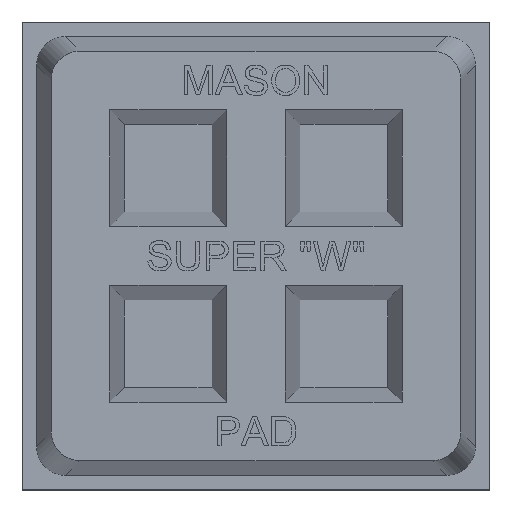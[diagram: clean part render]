
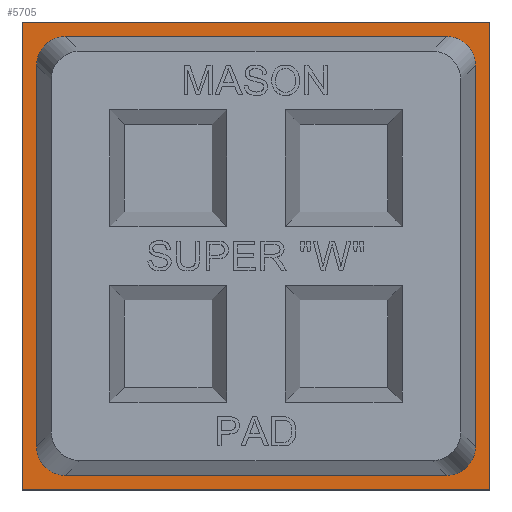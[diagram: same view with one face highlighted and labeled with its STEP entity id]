
A CAD part, top view. The second image highlights one B-rep face of the part: STEP entity #5705.
In plain terms, the highlighted planar face has unit normal (0, 0, 1).
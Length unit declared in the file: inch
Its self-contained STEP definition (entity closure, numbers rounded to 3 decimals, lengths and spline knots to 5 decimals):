
#289=FACE_BOUND('',#1154,.T.);
#507=PLANE('',#5949);
#813=FACE_OUTER_BOUND('',#1153,.T.);
#1153=EDGE_LOOP('',(#5380,#5381,#5382,#5383));
#1154=EDGE_LOOP('',(#5384,#5385,#5386,#5387,#5388,#5389,#5390,#5391));
#1312=LINE('',#7719,#1943);
#1318=LINE('',#7734,#1949);
#1320=LINE('',#7740,#1951);
#1773=LINE('',#10002,#2404);
#1778=LINE('',#10016,#2409);
#1781=LINE('',#10021,#2412);
#1783=LINE('',#10025,#2414);
#1785=LINE('',#10028,#2416);
#1943=VECTOR('',#6157,1.62941);
#1949=VECTOR('',#6173,1.62941);
#1951=VECTOR('',#6181,1.62941);
#2404=VECTOR('',#7040,1.62941);
#2409=VECTOR('',#7051,2.);
#2412=VECTOR('',#7056,2.);
#2414=VECTOR('',#7060,2.);
#2416=VECTOR('',#7064,2.);
#2426=ELLIPSE('',#5726,0.12945,0.125);
#2430=ELLIPSE('',#5733,0.12945,0.125);
#2431=ELLIPSE('',#5735,0.12945,0.125);
#2432=ELLIPSE('',#5738,0.12945,0.125);
#2451=VERTEX_POINT('',#7120);
#2452=VERTEX_POINT('',#7122);
#2654=VERTEX_POINT('',#7718);
#2655=VERTEX_POINT('',#7722);
#2656=VERTEX_POINT('',#7726);
#2657=VERTEX_POINT('',#7728);
#2658=VERTEX_POINT('',#7732);
#2659=VERTEX_POINT('',#7736);
#2967=VERTEX_POINT('',#10014);
#2968=VERTEX_POINT('',#10015);
#2969=VERTEX_POINT('',#10020);
#2970=VERTEX_POINT('',#10024);
#2997=EDGE_CURVE('',#2451,#2452,#2426,.F.);
#3201=EDGE_CURVE('',#2654,#2452,#1312,.T.);
#3203=EDGE_CURVE('',#2654,#2655,#2430,.F.);
#3206=EDGE_CURVE('',#2656,#2657,#2431,.F.);
#3209=EDGE_CURVE('',#2656,#2658,#1318,.T.);
#3211=EDGE_CURVE('',#2659,#2658,#2432,.F.);
#3212=EDGE_CURVE('',#2659,#2655,#1320,.T.);
#3765=EDGE_CURVE('',#2451,#2657,#1773,.T.);
#3770=EDGE_CURVE('',#2967,#2968,#1778,.T.);
#3773=EDGE_CURVE('',#2968,#2969,#1781,.T.);
#3775=EDGE_CURVE('',#2969,#2970,#1783,.T.);
#3777=EDGE_CURVE('',#2970,#2967,#1785,.T.);
#5380=ORIENTED_EDGE('',*,*,#3770,.F.);
#5381=ORIENTED_EDGE('',*,*,#3777,.F.);
#5382=ORIENTED_EDGE('',*,*,#3775,.F.);
#5383=ORIENTED_EDGE('',*,*,#3773,.F.);
#5384=ORIENTED_EDGE('',*,*,#3209,.T.);
#5385=ORIENTED_EDGE('',*,*,#3211,.F.);
#5386=ORIENTED_EDGE('',*,*,#3212,.T.);
#5387=ORIENTED_EDGE('',*,*,#3203,.F.);
#5388=ORIENTED_EDGE('',*,*,#3201,.T.);
#5389=ORIENTED_EDGE('',*,*,#2997,.F.);
#5390=ORIENTED_EDGE('',*,*,#3765,.T.);
#5391=ORIENTED_EDGE('',*,*,#3206,.F.);
#5705=ADVANCED_FACE('',(#813,#289),#507,.T.);
#5726=AXIS2_PLACEMENT_3D('',#7123,#6005,#6006);
#5733=AXIS2_PLACEMENT_3D('',#7723,#6161,#6162);
#5735=AXIS2_PLACEMENT_3D('',#7729,#6167,#6168);
#5738=AXIS2_PLACEMENT_3D('',#7738,#6177,#6178);
#5949=AXIS2_PLACEMENT_3D('',#10029,#7065,#7066);
#6005=DIRECTION('center_axis',(0.,0.,-1.));
#6006=DIRECTION('ref_axis',(-0.707,0.707,0.));
#6157=DIRECTION('',(0.,1.,0.));
#6161=DIRECTION('center_axis',(0.,0.,-1.));
#6162=DIRECTION('ref_axis',(-0.707,-0.707,0.));
#6167=DIRECTION('center_axis',(0.,0.,-1.));
#6168=DIRECTION('ref_axis',(0.707,0.707,0.));
#6173=DIRECTION('',(0.,-1.,0.));
#6177=DIRECTION('center_axis',(0.,0.,-1.));
#6178=DIRECTION('ref_axis',(0.707,-0.707,0.));
#6181=DIRECTION('',(-1.,0.,0.));
#7040=DIRECTION('',(1.,0.,0.));
#7051=DIRECTION('',(0.,-1.,0.));
#7056=DIRECTION('',(-1.,0.,0.));
#7060=DIRECTION('',(0.,1.,0.));
#7064=DIRECTION('',(1.,0.,0.));
#7065=DIRECTION('center_axis',(0.,0.,1.));
#7066=DIRECTION('ref_axis',(1.,0.,0.));
#7120=CARTESIAN_POINT('',(-0.81471,0.9375,0.04688));
#7122=CARTESIAN_POINT('',(-0.9375,0.81471,0.04688));
#7123=CARTESIAN_POINT('Origin',(-0.81025,0.81025,0.04688));
#7718=CARTESIAN_POINT('',(-0.9375,-0.81471,0.04688));
#7719=CARTESIAN_POINT('',(-0.9375,-0.46875,0.04688));
#7722=CARTESIAN_POINT('',(-0.81471,-0.9375,0.04688));
#7723=CARTESIAN_POINT('Origin',(-0.81025,-0.81025,0.04688));
#7726=CARTESIAN_POINT('',(0.9375,0.81471,0.04688));
#7728=CARTESIAN_POINT('',(0.81471,0.9375,0.04688));
#7729=CARTESIAN_POINT('Origin',(0.81025,0.81025,0.04688));
#7732=CARTESIAN_POINT('',(0.9375,-0.81471,0.04688));
#7734=CARTESIAN_POINT('',(0.9375,0.46875,0.04688));
#7736=CARTESIAN_POINT('',(0.81471,-0.9375,0.04688));
#7738=CARTESIAN_POINT('Origin',(0.81025,-0.81025,0.04688));
#7740=CARTESIAN_POINT('',(0.46875,-0.9375,0.04688));
#10002=CARTESIAN_POINT('',(-0.46875,0.9375,0.04688));
#10014=CARTESIAN_POINT('',(1.,1.,0.04688));
#10015=CARTESIAN_POINT('',(1.,-1.,0.04688));
#10016=CARTESIAN_POINT('',(1.,1.,0.04688));
#10020=CARTESIAN_POINT('',(-1.,-1.,0.04688));
#10021=CARTESIAN_POINT('',(1.,-1.,0.04688));
#10024=CARTESIAN_POINT('',(-1.,1.,0.04688));
#10025=CARTESIAN_POINT('',(-1.,-1.,0.04688));
#10028=CARTESIAN_POINT('',(-1.,1.,0.04688));
#10029=CARTESIAN_POINT('Origin',(0.,0.,0.04688));
